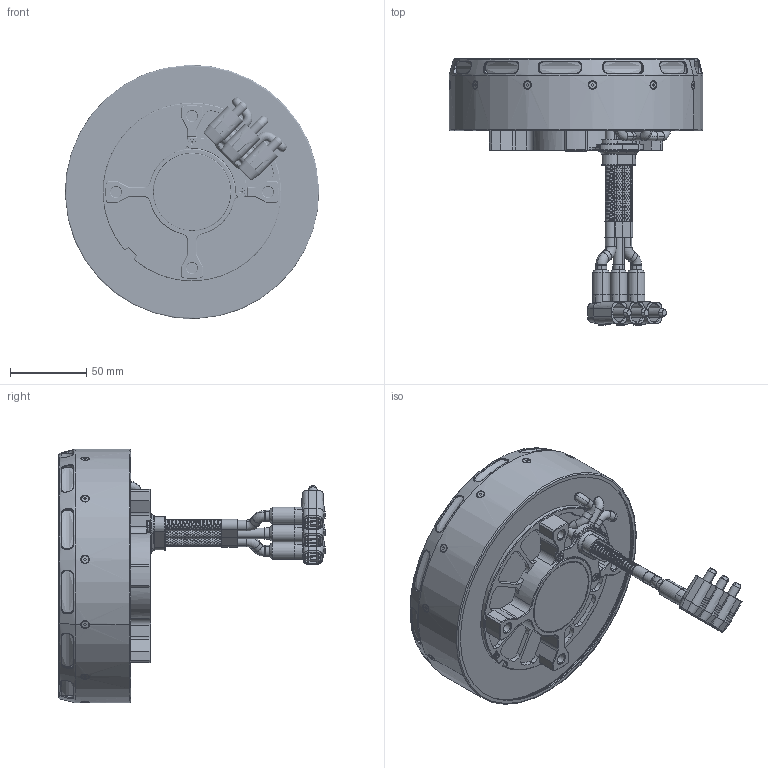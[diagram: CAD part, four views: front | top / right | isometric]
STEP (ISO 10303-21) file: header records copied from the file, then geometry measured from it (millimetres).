
FILE_DESCRIPTION (( 'STEP AP203' ), '1' );
FILE_NAME ('X15-15623-C唳掛萇儂3D-勤俋-24.12.30.STEP', '2024-12-31T02:00:41', ( '' ), ( '' ), 'SwSTEP 2.0', 'SolidWorks 2021', '' );
FILE_SCHEMA (( 'CONFIG_CONTROL_DESIGN' ));
Products named in the file (1): X15-15623-C唳掛萇儂3D-勤俋-24.12.30
Bounding box: 166.94 x 175.45 x 166.94 mm (x, y, z)
Volume: 1046969.5 mm3; surface area: 129642.1 mm2
Topology: 22 solids, 27 shells, 5391 faces, 15423 edges, 9964 vertices
Faces by surface type: plane 3810, cylinder 717, bspline 392, cone 321, torus 151
Entity records: 218790 total; most frequent: CARTESIAN_POINT 85297, ORIENTED_EDGE 30778, DIRECTION 23402, EDGE_CURVE 15389, LINE 10300, VECTOR 10300, VERTEX_POINT 9964, EDGE_LOOP 6567
